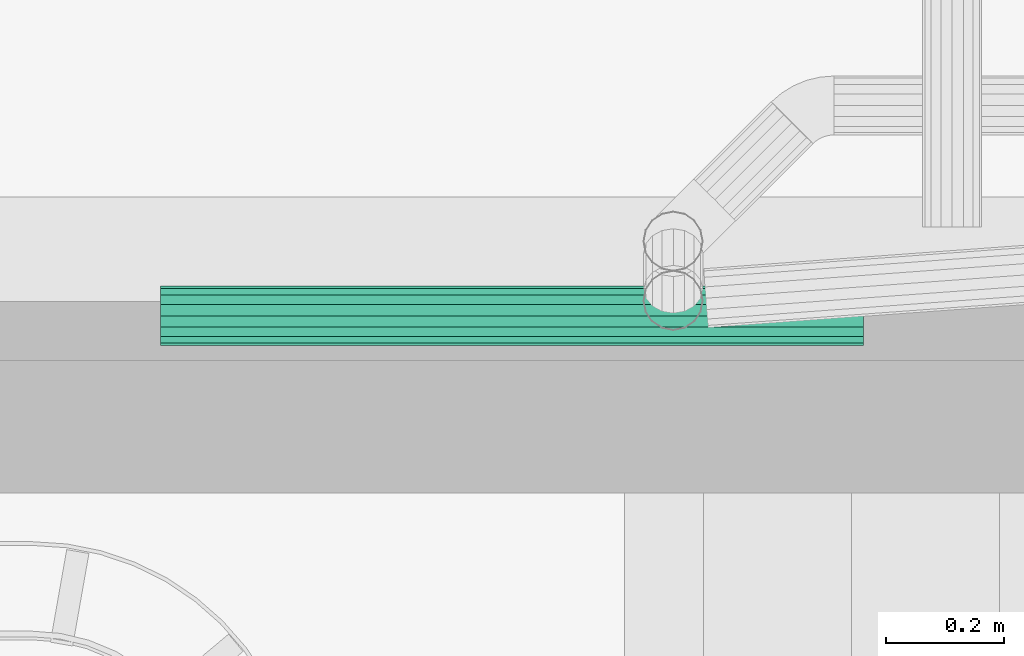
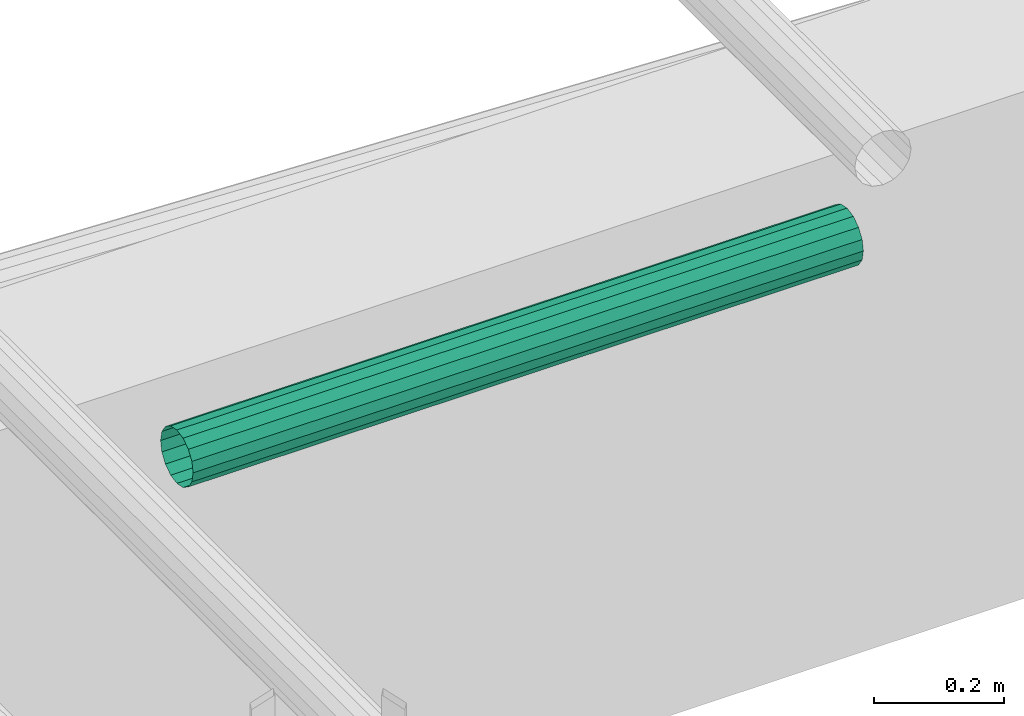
# One storey, part 51 of 108: 1 flow segment.
"""IFC2X3 building model written with IfcOpenShell, lengths in metres."""

from ifc_helpers import new_model, entity, si_unit, converted_unit, derived_unit, money_unit, direction, frame, origin_with_axes, place, context, subcontext, project, spatial, faceted_brep, material, type_object, element, save


model = new_model("IFC2X3")

# Units and contexts
model_context = context("Model", 3, precision=1e-05, world=origin_with_axes(), true_north=direction((0.0, 1.0)))
body_context = subcontext(model_context, "Body", "Model", "MODEL_VIEW", scale=1.0)
ifc_project = project(units=[si_unit("LENGTHUNIT", "METRE"), si_unit("AREAUNIT", "SQUARE_METRE"), si_unit("VOLUMEUNIT", "CUBIC_METRE"), si_unit("ABSORBEDDOSEUNIT", "GRAY"), si_unit("AMOUNTOFSUBSTANCEUNIT", "MOLE"), si_unit("DOSEEQUIVALENTUNIT", "SIEVERT"), si_unit("ELECTRICCAPACITANCEUNIT", "FARAD"), si_unit("ELECTRICCHARGEUNIT", "COULOMB"), si_unit("ELECTRICCONDUCTANCEUNIT", "SIEMENS"), si_unit("ELECTRICCURRENTUNIT", "AMPERE"), si_unit("ELECTRICRESISTANCEUNIT", "OHM"), si_unit("ELECTRICVOLTAGEUNIT", "VOLT"), si_unit("ENERGYUNIT", "JOULE"), si_unit("FORCEUNIT", "NEWTON"), si_unit("FREQUENCYUNIT", "HERTZ"), si_unit("ILLUMINANCEUNIT", "LUX"), si_unit("INDUCTANCEUNIT", "HENRY"), si_unit("LUMINOUSFLUXUNIT", "LUMEN"), si_unit("LUMINOUSINTENSITYUNIT", "CANDELA"), si_unit("MAGNETICFLUXDENSITYUNIT", "TESLA"), si_unit("MAGNETICFLUXUNIT", "WEBER"), si_unit("MASSUNIT", "GRAM"), converted_unit("PLANEANGLEUNIT", "degree", entity("IfcReal", 0.0174532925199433), si_unit("PLANEANGLEUNIT", "RADIAN"), dimensions=[0, 0, 0, 0, 0, 0, 0]), si_unit("POWERUNIT", "WATT"), si_unit("PRESSUREUNIT", "PASCAL"), si_unit("RADIOACTIVITYUNIT", "BECQUEREL"), si_unit("SOLIDANGLEUNIT", "STERADIAN"), si_unit("THERMODYNAMICTEMPERATUREUNIT", "KELVIN"), si_unit("TIMEUNIT", "SECOND"), derived_unit("ACCELERATIONUNIT", [(si_unit("LENGTHUNIT", "METRE"), 1), (si_unit("TIMEUNIT", "SECOND"), -2)]), derived_unit("ANGULARVELOCITYUNIT", [(converted_unit("PLANEANGLEUNIT", "degree", entity("IfcReal", 0.0174532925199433), si_unit("PLANEANGLEUNIT", "RADIAN"), dimensions=[0, 0, 0, 0, 0, 0, 0]), 1), (si_unit("TIMEUNIT", "SECOND"), -1)]), derived_unit("CURVATUREUNIT", [(converted_unit("PLANEANGLEUNIT", "degree", entity("IfcReal", 0.0174532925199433), si_unit("PLANEANGLEUNIT", "RADIAN"), dimensions=[0, 0, 0, 0, 0, 0, 0]), 1), (si_unit("LENGTHUNIT", "METRE"), -1)]), derived_unit("DYNAMICVISCOSITYUNIT", [(si_unit("PRESSUREUNIT", "PASCAL"), 1), (si_unit("TIMEUNIT", "SECOND"), 1)]), derived_unit("HEATFLUXDENSITYUNIT", [(si_unit("POWERUNIT", "WATT"), 1), (si_unit("LENGTHUNIT", "METRE"), -2)]), derived_unit("HEATINGVALUEUNIT", [(si_unit("ENERGYUNIT", "JOULE"), 1), (si_unit("MASSUNIT", "GRAM"), -1)]), derived_unit("INTEGERCOUNTRATEUNIT", [(si_unit("TIMEUNIT", "SECOND"), -1)]), derived_unit("IONCONCENTRATIONUNIT", [(si_unit("MASSUNIT", "GRAM"), 1), (si_unit("VOLUMEUNIT", "CUBIC_METRE"), -1)]), derived_unit("ISOTHERMALMOISTURECAPACITYUNIT", [(si_unit("VOLUMEUNIT", "CUBIC_METRE"), 1), (si_unit("MASSUNIT", "GRAM"), -1)]), derived_unit("KINEMATICVISCOSITYUNIT", [(si_unit("AREAUNIT", "SQUARE_METRE"), 1), (si_unit("TIMEUNIT", "SECOND"), -1)]), derived_unit("LINEARFORCEUNIT", [(si_unit("FORCEUNIT", "NEWTON"), 1), (si_unit("LENGTHUNIT", "METRE"), -1)]), derived_unit("LINEARMOMENTUNIT", [(si_unit("FORCEUNIT", "NEWTON"), 1), (si_unit("LENGTHUNIT", "METRE"), -1)]), derived_unit("LINEARSTIFFNESSUNIT", [(si_unit("FORCEUNIT", "NEWTON"), 1), (si_unit("LENGTHUNIT", "METRE"), -1)]), derived_unit("LINEARVELOCITYUNIT", [(si_unit("LENGTHUNIT", "METRE"), 1), (si_unit("TIMEUNIT", "SECOND"), -1)]), derived_unit("LUMINOUSINTENSITYDISTRIBUTIONUNIT", [(si_unit("LUMINOUSINTENSITYUNIT", "CANDELA"), 1), (si_unit("LUMINOUSFLUXUNIT", "LUMEN"), -1)]), derived_unit("MASSDENSITYUNIT", [(si_unit("MASSUNIT", "GRAM"), 1), (si_unit("VOLUMEUNIT", "CUBIC_METRE"), -1)]), derived_unit("MASSFLOWRATEUNIT", [(si_unit("MASSUNIT", "GRAM"), 1), (si_unit("TIMEUNIT", "SECOND"), -1)]), derived_unit("MASSPERLENGTHUNIT", [(si_unit("MASSUNIT", "GRAM"), 1), (si_unit("LENGTHUNIT", "METRE"), -1)]), derived_unit("MODULUSOFELASTICITYUNIT", [(si_unit("FORCEUNIT", "NEWTON"), 1), (si_unit("AREAUNIT", "SQUARE_METRE"), -1)]), derived_unit("MODULUSOFLINEARSUBGRADEREACTIONUNIT", [(si_unit("FORCEUNIT", "NEWTON"), 1), (si_unit("LENGTHUNIT", "METRE"), -2)]), derived_unit("MODULUSOFROTATIONALSUBGRADEREACTIONUNIT", [(si_unit("FORCEUNIT", "NEWTON"), 1), (si_unit("LENGTHUNIT", "METRE"), 1)]), derived_unit("MODULUSOFSUBGRADEREACTIONUNIT", [(si_unit("FORCEUNIT", "NEWTON"), 1), (si_unit("VOLUMEUNIT", "CUBIC_METRE"), -1)]), derived_unit("MOISTUREDIFFUSIVITYUNIT", [(si_unit("VOLUMEUNIT", "CUBIC_METRE"), 1), (si_unit("TIMEUNIT", "SECOND"), -1)]), derived_unit("MOLECULARWEIGHTUNIT", [(si_unit("MASSUNIT", "GRAM"), 1), (si_unit("AMOUNTOFSUBSTANCEUNIT", "MOLE"), -1)]), derived_unit("PLANARFORCEUNIT", [(si_unit("FORCEUNIT", "NEWTON"), 1), (si_unit("LENGTHUNIT", "METRE"), -2)]), derived_unit("ROTATIONALFREQUENCYUNIT", [(si_unit("TIMEUNIT", "SECOND"), -1)]), derived_unit("ROTATIONALMASSUNIT", [(si_unit("MASSUNIT", "GRAM"), 1), (si_unit("LENGTHUNIT", "METRE"), 2)]), derived_unit("ROTATIONALSTIFFNESSUNIT", [(si_unit("FORCEUNIT", "NEWTON"), 1), (si_unit("LENGTHUNIT", "METRE"), 1), (converted_unit("PLANEANGLEUNIT", "degree", entity("IfcReal", 0.0174532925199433), si_unit("PLANEANGLEUNIT", "RADIAN"), dimensions=[0, 0, 0, 0, 0, 0, 0]), -1)]), derived_unit("SECTIONAREAINTEGRALUNIT", [(si_unit("LENGTHUNIT", "METRE"), 5)]), derived_unit("SECTIONMODULUSUNIT", [(si_unit("LENGTHUNIT", "METRE"), 3)]), derived_unit("SHEARMODULUSUNIT", [(si_unit("FORCEUNIT", "NEWTON"), 1), (si_unit("AREAUNIT", "SQUARE_METRE"), -1)]), derived_unit("SOUNDPOWERUNIT", [(si_unit("ENERGYUNIT", "JOULE"), 1), (si_unit("TIMEUNIT", "SECOND"), -1)]), derived_unit("SPECIFICHEATCAPACITYUNIT", [(si_unit("FORCEUNIT", "NEWTON"), 1), (si_unit("MASSUNIT", "GRAM"), -1), (si_unit("THERMODYNAMICTEMPERATUREUNIT", "KELVIN"), -1)]), derived_unit("TEMPERATUREGRADIENTUNIT", [(si_unit("THERMODYNAMICTEMPERATUREUNIT", "KELVIN"), 1), (si_unit("LENGTHUNIT", "METRE"), -1)]), derived_unit("THERMALADMITTANCEUNIT", [(si_unit("POWERUNIT", "WATT"), 1), (si_unit("AREAUNIT", "SQUARE_METRE"), -1), (si_unit("THERMODYNAMICTEMPERATUREUNIT", "KELVIN"), -1)]), derived_unit("THERMALCONDUCTANCEUNIT", [(si_unit("POWERUNIT", "WATT"), 1), (si_unit("LENGTHUNIT", "METRE"), -1), (si_unit("THERMODYNAMICTEMPERATUREUNIT", "KELVIN"), -1)]), derived_unit("THERMALEXPANSIONCOEFFICIENTUNIT", [(si_unit("THERMODYNAMICTEMPERATUREUNIT", "KELVIN"), -1)]), derived_unit("THERMALRESISTANCEUNIT", [(si_unit("AREAUNIT", "SQUARE_METRE"), 1), (si_unit("POWERUNIT", "WATT"), -1)]), derived_unit("THERMALTRANSMITTANCEUNIT", [(si_unit("POWERUNIT", "WATT"), 1), (si_unit("AREAUNIT", "SQUARE_METRE"), -1), (si_unit("THERMODYNAMICTEMPERATUREUNIT", "KELVIN"), -1)]), derived_unit("TORQUEUNIT", [(si_unit("FORCEUNIT", "NEWTON"), 1), (si_unit("LENGTHUNIT", "METRE"), 1)]), derived_unit("VAPORPERMEABILITYUNIT", [(si_unit("MASSUNIT", "GRAM"), 1), (si_unit("TIMEUNIT", "SECOND"), -1)]), derived_unit("VOLUMETRICFLOWRATEUNIT", [(si_unit("VOLUMEUNIT", "CUBIC_METRE"), 1), (si_unit("TIMEUNIT", "SECOND"), -1)]), derived_unit("WARPINGCONSTANTUNIT", [(si_unit("LENGTHUNIT", "METRE"), 6)]), derived_unit("WARPINGMOMENTUNIT", [(si_unit("FORCEUNIT", "NEWTON"), 1), (si_unit("LENGTHUNIT", "METRE"), 2)]), money_unit("GBP")], contexts=[model_context])

# Site, building, storey
site_placement = place(None, origin_with_axes())
site = spatial("IfcSite", under=ifc_project, at=site_placement, Name="Site", CompositionType="ELEMENT")
building_placement = place(site_placement, origin_with_axes())
building = spatial("IfcBuilding", under=site, at=building_placement, Name="Building01", CompositionType="ELEMENT")
storey_placement = place(building_placement, origin_with_axes())
storey = spatial("IfcBuildingStorey", under=building, at=storey_placement, Name="GF", CompositionType="ELEMENT", Elevation=0.0)

# Flow segment
ifc_material = material(Name="M_BSUK_Ventilation")
duct_segment_type = type_object("IfcDuctSegmentType", Name="M-RoundDuct", PredefinedType="RIGIDSEGMENT")
flow_segment_placement = place(storey_placement, frame((13.1, 8.947353, 20.03), z_axis=(0.0, 0.0, 1.0), x_axis=(-1.0, 0.0, 0.0)))
element("IfcFlowSegment", 1, at=flow_segment_placement, inside=storey, type_object=duct_segment_type, material=ifc_material, Name="M-RoundDuct", ObjectType="M-RoundDuct", context=body_context, shape_type="Brep", body=[
    faceted_brep([(1.188137, 0.0, -0.05), (0.0, 0.0, -0.05), (0.0, 0.019134, -0.046194), (1.188137, 0.019134, -0.046194), (0.0, 0.035355, -0.035355), (1.188137, 0.035355, -0.035355), (0.0, 0.046194, -0.019134), (1.188137, 0.046194, -0.019134), (0.0, 0.05, 0.0), (1.188137, 0.05, 0.0), (0.0, 0.046194, 0.019134), (1.188137, 0.046194, 0.019134), (0.0, 0.035355, 0.035355), (1.188137, 0.035355, 0.035355), (0.0, 0.019134, 0.046194), (1.188137, 0.019134, 0.046194), (0.0, 0.0, 0.05), (1.188137, 0.0, 0.05), (0.0, -0.019134, 0.046194), (1.188137, -0.019134, 0.046194), (0.0, -0.035355, 0.035355), (1.188137, -0.035355, 0.035355), (0.0, -0.046194, 0.019134), (1.188137, -0.046194, 0.019134), (0.0, -0.05, 0.0), (1.188137, -0.05, 0.0), (0.0, -0.046194, -0.019134), (1.188137, -0.046194, -0.019134), (0.0, -0.035355, -0.035355), (1.188137, -0.035355, -0.035355), (0.0, -0.019134, -0.046194), (1.188137, -0.019134, -0.046194)], [[[0, 1, 2, 3]], [[3, 2, 4, 5]], [[5, 4, 6, 7]], [[7, 6, 8, 9]], [[9, 8, 10, 11]], [[11, 10, 12, 13]], [[13, 12, 14, 15]], [[15, 14, 16, 17]], [[17, 16, 18, 19]], [[19, 18, 20, 21]], [[21, 20, 22, 23]], [[23, 22, 24, 25]], [[25, 24, 26, 27]], [[27, 26, 28, 29]], [[29, 28, 30, 31]], [[31, 30, 1, 0]]]),
])

save(model, "model.ifc")
